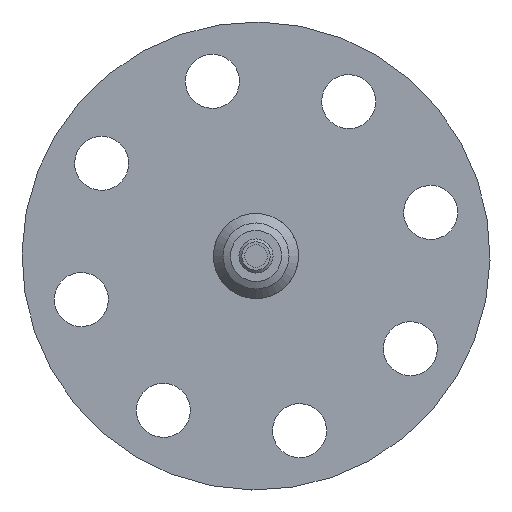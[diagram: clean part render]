
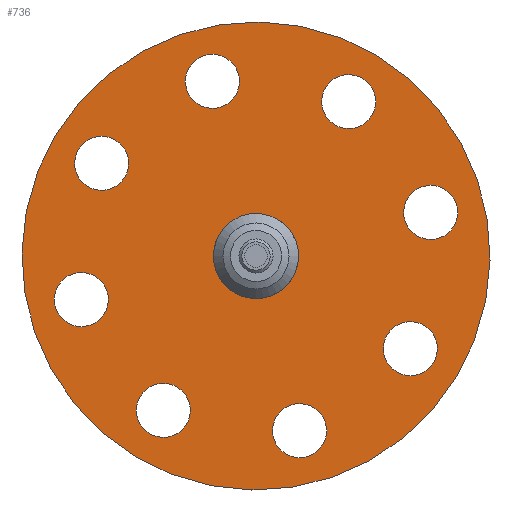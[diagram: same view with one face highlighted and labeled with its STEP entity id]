
A CAD part, front view. The second image highlights one B-rep face of the part: STEP entity #736.
In plain terms, the highlighted planar face has unit normal (0, -1, 0).
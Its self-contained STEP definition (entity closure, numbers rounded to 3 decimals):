
#72=ORIENTED_EDGE('',*,*,#151,.T.);
#73=ORIENTED_EDGE('',*,*,#150,.T.);
#74=ORIENTED_EDGE('',*,*,#149,.T.);
#75=ORIENTED_EDGE('',*,*,#148,.T.);
#76=ORIENTED_EDGE('',*,*,#147,.T.);
#77=ORIENTED_EDGE('',*,*,#146,.T.);
#78=ORIENTED_EDGE('',*,*,#145,.T.);
#79=ORIENTED_EDGE('',*,*,#144,.T.);
#80=ORIENTED_EDGE('',*,*,#143,.T.);
#81=ORIENTED_EDGE('',*,*,#142,.F.);
#142=EDGE_CURVE('',#187,#187,#232,.T.);
#143=EDGE_CURVE('',#188,#188,#233,.T.);
#144=EDGE_CURVE('',#189,#189,#234,.T.);
#145=EDGE_CURVE('',#190,#190,#235,.T.);
#146=EDGE_CURVE('',#191,#191,#236,.T.);
#147=EDGE_CURVE('',#192,#192,#237,.T.);
#148=EDGE_CURVE('',#193,#193,#238,.T.);
#149=EDGE_CURVE('',#194,#194,#239,.T.);
#150=EDGE_CURVE('',#195,#195,#240,.T.);
#151=EDGE_CURVE('',#196,#196,#241,.T.);
#187=VERTEX_POINT('',#1048);
#188=VERTEX_POINT('',#1051);
#189=VERTEX_POINT('',#1054);
#190=VERTEX_POINT('',#1057);
#191=VERTEX_POINT('',#1060);
#192=VERTEX_POINT('',#1063);
#193=VERTEX_POINT('',#1066);
#194=VERTEX_POINT('',#1069);
#195=VERTEX_POINT('',#1072);
#196=VERTEX_POINT('',#1075);
#232=CIRCLE('',#783,82.55);
#233=CIRCLE('',#785,9.525);
#234=CIRCLE('',#787,9.525);
#235=CIRCLE('',#789,9.525);
#236=CIRCLE('',#791,9.525);
#237=CIRCLE('',#793,9.525);
#238=CIRCLE('',#795,9.525);
#239=CIRCLE('',#797,9.525);
#240=CIRCLE('',#799,9.525);
#241=CIRCLE('',#801,15.);
#297=EDGE_LOOP('',(#72));
#298=EDGE_LOOP('',(#73));
#299=EDGE_LOOP('',(#74));
#300=EDGE_LOOP('',(#75));
#301=EDGE_LOOP('',(#76));
#302=EDGE_LOOP('',(#77));
#303=EDGE_LOOP('',(#78));
#304=EDGE_LOOP('',(#79));
#305=EDGE_LOOP('',(#80));
#306=EDGE_LOOP('',(#81));
#387=FACE_BOUND('',#297,.T.);
#388=FACE_BOUND('',#298,.T.);
#389=FACE_BOUND('',#299,.T.);
#390=FACE_BOUND('',#300,.T.);
#391=FACE_BOUND('',#301,.T.);
#392=FACE_BOUND('',#302,.T.);
#393=FACE_BOUND('',#303,.T.);
#394=FACE_BOUND('',#304,.T.);
#395=FACE_BOUND('',#305,.T.);
#396=FACE_BOUND('',#306,.T.);
#447=PLANE('',#800);
#736=ADVANCED_FACE('',(#387,#388,#389,#390,#391,#392,#393,#394,#395,#396),
#447,.F.);
#783=AXIS2_PLACEMENT_3D('',#1047,#884,#885);
#785=AXIS2_PLACEMENT_3D('',#1050,#888,#889);
#787=AXIS2_PLACEMENT_3D('',#1053,#892,#893);
#789=AXIS2_PLACEMENT_3D('',#1056,#896,#897);
#791=AXIS2_PLACEMENT_3D('',#1059,#900,#901);
#793=AXIS2_PLACEMENT_3D('',#1062,#904,#905);
#795=AXIS2_PLACEMENT_3D('',#1065,#908,#909);
#797=AXIS2_PLACEMENT_3D('',#1068,#912,#913);
#799=AXIS2_PLACEMENT_3D('',#1071,#916,#917);
#800=AXIS2_PLACEMENT_3D('',#1073,#918,#919);
#801=AXIS2_PLACEMENT_3D('',#1074,#920,#921);
#884=DIRECTION('',(0.,1.,0.));
#885=DIRECTION('',(-0.515,0.,-0.857));
#888=DIRECTION('',(0.,1.,0.));
#889=DIRECTION('',(-0.515,0.,-0.857));
#892=DIRECTION('',(0.,1.,0.));
#893=DIRECTION('',(-0.515,0.,-0.857));
#896=DIRECTION('',(0.,1.,0.));
#897=DIRECTION('',(-0.515,0.,-0.857));
#900=DIRECTION('',(0.,1.,0.));
#901=DIRECTION('',(-0.515,0.,-0.857));
#904=DIRECTION('',(0.,1.,0.));
#905=DIRECTION('',(-0.515,0.,-0.857));
#908=DIRECTION('',(0.,1.,0.));
#909=DIRECTION('',(-0.515,0.,-0.857));
#912=DIRECTION('',(0.,1.,0.));
#913=DIRECTION('',(-0.515,0.,-0.857));
#916=DIRECTION('',(0.,1.,0.));
#917=DIRECTION('',(-0.515,0.,-0.857));
#918=DIRECTION('',(0.,1.,0.));
#919=DIRECTION('',(0.515,0.,0.857));
#920=DIRECTION('',(0.,1.,0.));
#921=DIRECTION('',(-0.857,0.,0.515));
#1047=CARTESIAN_POINT('',(0.,-217.912,0.));
#1048=CARTESIAN_POINT('',(-42.5,-217.912,-70.769));
#1050=CARTESIAN_POINT('',(32.692,-217.912,54.438));
#1051=CARTESIAN_POINT('',(27.788,-217.912,46.272));
#1053=CARTESIAN_POINT('',(61.61,-217.912,15.376));
#1054=CARTESIAN_POINT('',(56.706,-217.912,7.211));
#1056=CARTESIAN_POINT('',(54.438,-217.912,-32.692));
#1057=CARTESIAN_POINT('',(49.534,-217.912,-40.858));
#1059=CARTESIAN_POINT('',(15.376,-217.912,-61.61));
#1060=CARTESIAN_POINT('',(10.473,-217.912,-69.776));
#1062=CARTESIAN_POINT('',(-32.692,-217.912,-54.438));
#1063=CARTESIAN_POINT('',(-37.596,-217.912,-62.603));
#1065=CARTESIAN_POINT('',(-61.61,-217.912,-15.376));
#1066=CARTESIAN_POINT('',(-66.514,-217.912,-23.542));
#1068=CARTESIAN_POINT('',(-54.438,-217.912,32.692));
#1069=CARTESIAN_POINT('',(-59.342,-217.912,24.527));
#1071=CARTESIAN_POINT('',(-15.376,-217.912,61.61));
#1072=CARTESIAN_POINT('',(-20.28,-217.912,53.445));
#1073=CARTESIAN_POINT('',(-70.769,-217.912,42.5));
#1074=CARTESIAN_POINT('',(0.,-217.912,0.));
#1075=CARTESIAN_POINT('',(-12.859,-217.912,7.723));
